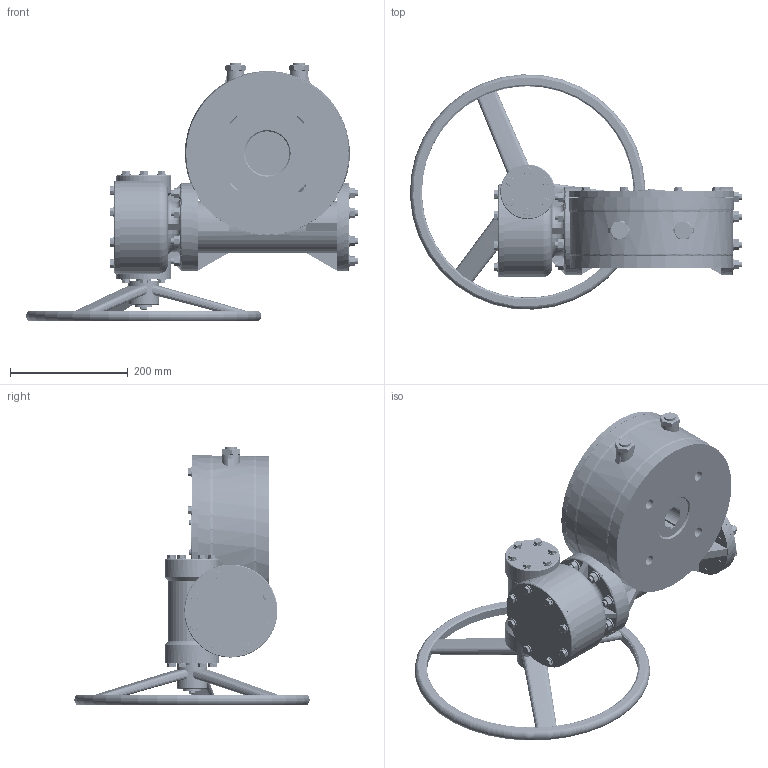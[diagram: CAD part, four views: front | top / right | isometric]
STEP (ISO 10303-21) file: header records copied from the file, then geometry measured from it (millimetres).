
FILE_DESCRIPTION (( 'STEP AP203' ), '1' );
FILE_NAME ('3DE1-30-400-忒雄芛.STEP', '2026-02-06T01:59:44', ( '' ), ( '' ), 'SwSTEP 2.0', 'SolidWorks 2018', '' );
FILE_SCHEMA (( 'CONFIG_CONTROL_DESIGN' ));
Length unit declared in the file: millimetre
Products named in the file (33): slotted pan head screws gb_GB_FASTENER_SCREWS_NCHB M5X12-12-N; 3D-30-250-湮眊极恦謫; 3D-30-250-14-菜; 3D-30-250-15-硌尨齪; 3D-30-250-12-苤眊极綴傷裔; hexagon head bolts--product grade c gb_GB_FASTENER_BOLT_HHBC M6X30-N; tapered roller bearings gb_Rolling bearings 30205 GB 297-94; 3D-30-250-11-苤眊极ヶ傷裔; 3D-30-250-08-苤眊极傷裔; hex thin nuts-grades ab-chamfered gb_GB_FASTENER_NUT_STNAB  B M20-N; 1倰鞠褒蹟譫 10; 内六角平端紧定螺钉M20x115; 3D-30-250-苤眊极恦謫; 3DE1-30-400-忒雄芛; 3D-30-250-03-湮眊极綴傷裔; 鞠褒芛蹟邡 M8X25; す菜え 8; 3D-30-250-苤眊极恦裝; 3D-30-250-17-苤眊极ヶ傷裔菜; plain washers-n series-grade a gb_GB_FASTENER_WASHER_PWNA 8; 脹酗邧芛蹟翐M10x35; 3D-30-250-19-湮眊极綴傷裔菜; tapered roller bearings gb_Rolling bearings 32007 GB 297-94; 3D-30-250-18-湮眊极傷裔菜; 3D-30-250-湮眊极恦裝; 3D-30-250-01-湮眊极; す菜え 10; 3D-30-250-02-湮眊极傷裔; 3D-30-250-20-苤眊极傷裔菜; 3D-30-250-忒謫; 脹酗邧芛蹟翐M10x45; hexagon head bolts--product grade c gb_GB_FASTENER_BOLT_HHBC M8X40-N; 3D-30-250-07-苤眊极
Assembly tree (133 placements, depth 2):
  3DE1-30-400-忒雄芛
    3D-30-250-01-湮眊极
    3D-30-250-02-湮眊极傷裔
    3D-30-250-18-湮眊极傷裔菜
    3D-30-250-15-硌尨齪
    3D-30-250-03-湮眊极綴傷裔
    3D-30-250-19-湮眊极綴傷裔菜
    3D-30-250-07-苤眊极
    3D-30-250-湮眊极恦裝
    3D-30-250-湮眊极恦謫
    3D-30-250-苤眊极恦謫
    3D-30-250-08-苤眊极傷裔
    3D-30-250-20-苤眊极傷裔菜
    3D-30-250-12-苤眊极綴傷裔
    3D-30-250-11-苤眊极ヶ傷裔
    3D-30-250-苤眊极恦裝
    3D-30-250-17-苤眊极ヶ傷裔菜
    3D-30-250-忒謫
    内六角平端紧定螺钉M20x115  x2
    hex thin nuts-grades ab-chamfered gb_GB_FASTENER_NUT_STNAB  B M20-N  x2
    鞠褒芛蹟邡 M8X25  x20
    す菜え 8  x20
    hexagon head bolts--product grade c gb_GB_FASTENER_BOLT_HHBC M8X40-N  x8
    plain washers-n series-grade a gb_GB_FASTENER_WASHER_PWNA 8  x8
    脹酗邧芛蹟翐M10x45  x8
    す菜え 10  x16
    1倰鞠褒蹟譫 10  x16
    脹酗邧芛蹟翐M10x35  x8
    3D-30-250-14-菜
    hexagon head bolts--product grade c gb_GB_FASTENER_BOLT_HHBC M6X30-N
    slotted pan head screws gb_GB_FASTENER_SCREWS_NCHB M5X12-12-N  x2
    tapered roller bearings gb_Rolling bearings 32007 GB 297-94  x2
    tapered roller bearings gb_Rolling bearings 30205 GB 297-94  x2
Bounding box: 563.62 x 399.45 x 439 mm (x, y, z)
Volume: 7891922.1 mm3; surface area: 1697387.1 mm2
Topology: 134 solids, 134 shells, 3541 faces, 10085 edges, 6571 vertices
Faces by surface type: plane 1061, cylinder 1001, cone 755, torus 508, bspline 216
Entity records: 224765 total; most frequent: CARTESIAN_POINT 165565, ORIENTED_EDGE 12114, DIRECTION 10087, EDGE_CURVE 6057, AXIS2_PLACEMENT_3D 4339, VERTEX_POINT 3965, EDGE_LOOP 2512, CIRCLE 2338
